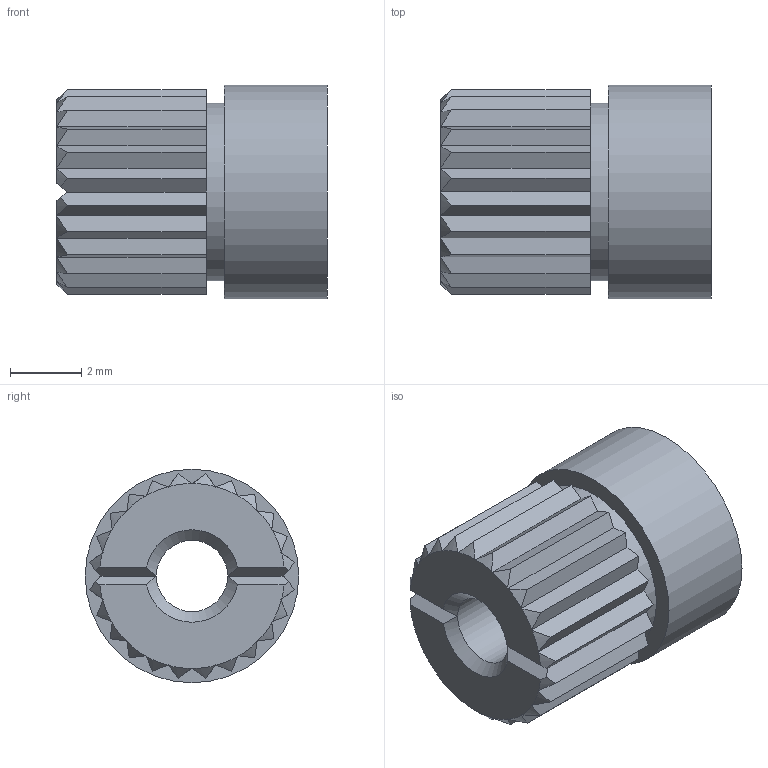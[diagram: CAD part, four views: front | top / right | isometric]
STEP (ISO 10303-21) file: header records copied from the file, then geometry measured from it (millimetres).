
FILE_DESCRIPTION(('Open CASCADE Model'),'2;1');
FILE_NAME('Open CASCADE Shape Model','2026-11-24T19:57:40',('Author'),( 'Open CASCADE'),'Open CASCADE STEP processor 7.8','Open CASCADE 7.8' ,'Unknown');
FILE_SCHEMA(('AUTOMOTIVE_DESIGN { 1 0 10303 214 1 1 1 1 }'));
Length unit declared in the file: millimetre
Products named in the file (1): Open CASCADE STEP translator 7.8 122
Bounding box: 7.6 x 6 x 6 mm (x, y, z)
Volume: 165.9 mm3; surface area: 261.9 mm2
Topology: 1 solids, 1 shells, 86 faces, 242 edges, 159 vertices
Faces by surface type: plane 57, cone 26, cylinder 3
Full cylindrical faces by diameter (mm): 2 x1, 5 x1, 6 x1
Entity records: 6019 total; most frequent: CARTESIAN_POINT 1547, DIRECTION 705, ORIENTED_EDGE 484, PCURVE 484, DEFINITIONAL_REPRESENTATION 484, LINE 437, VECTOR 437, EDGE_CURVE 242
